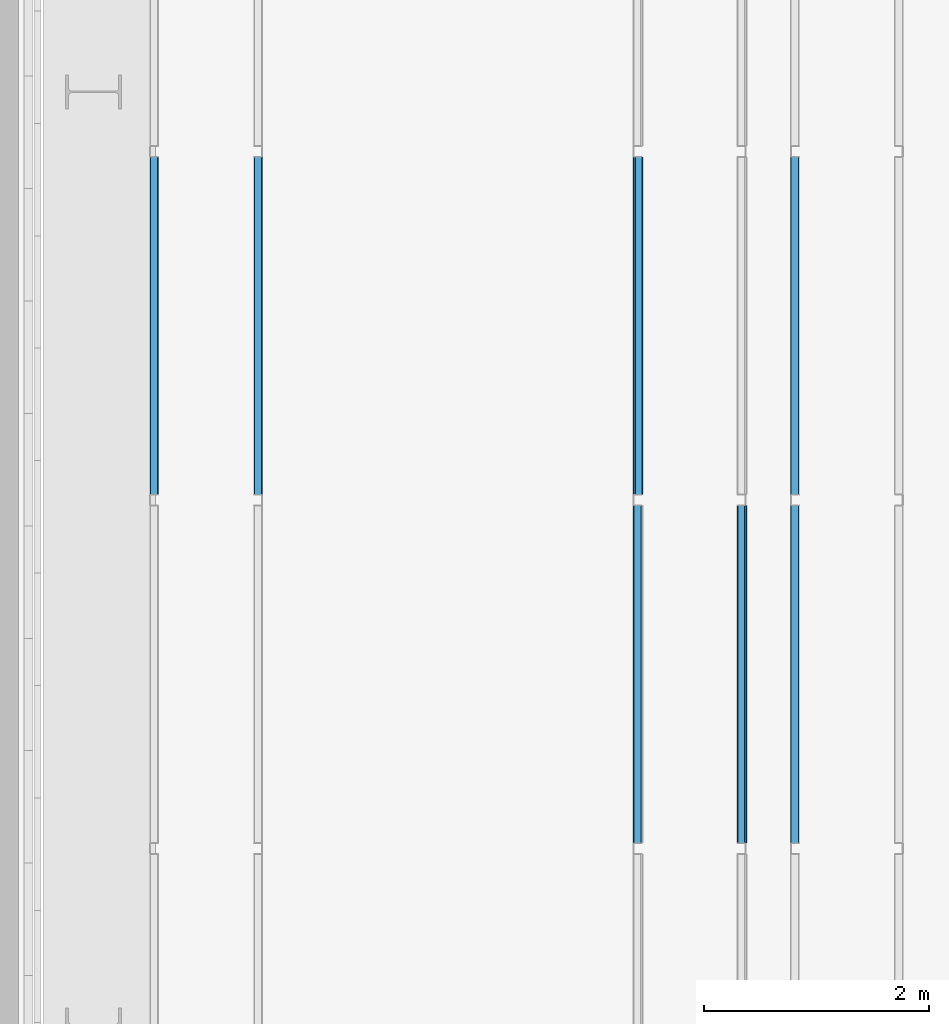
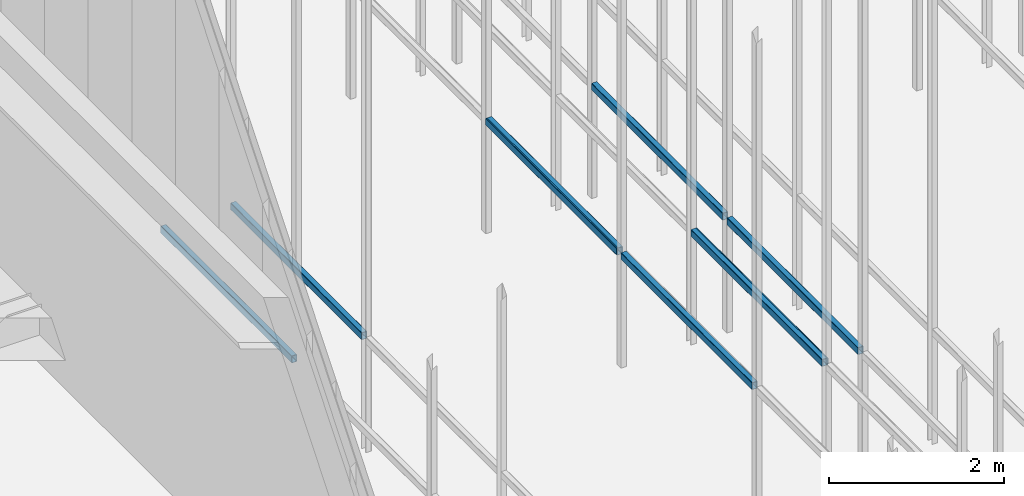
# One storey, part 142 of 302: 9 beams.
"""IFC2X3 building model written with IfcOpenShell, lengths in metres."""

from ifc_helpers import new_model, entity, si_unit, converted_unit, derived_unit, direction, frame, frame_2d, origin, place, context, subcontext, project, spatial, polyline, circle_curve, parameter, trimmed, segment, composite_curve, outline, extrude, material, type_object, element, save


model = new_model("IFC2X3")

# Units and contexts
model_context = context("Model", 3, precision=1e-05, world=origin(), true_north=direction((6.12303176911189e-17, 1.0)))
body_context = subcontext(model_context, "Body", "Model", "MODEL_VIEW")
ifc_project = project(units=[si_unit("LENGTHUNIT", "METRE"), si_unit("AREAUNIT", "SQUARE_METRE"), si_unit("VOLUMEUNIT", "CUBIC_METRE"), converted_unit("PLANEANGLEUNIT", "DEGREE", entity("IfcRatioMeasure", 0.0174532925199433), si_unit("PLANEANGLEUNIT", "RADIAN"), dimensions=[0, 0, 0, 0, 0, 0, 0]), si_unit("MASSUNIT", "GRAM", prefix="KILO"), derived_unit("MASSDENSITYUNIT", [(si_unit("MASSUNIT", "GRAM", prefix="KILO"), 1), (si_unit("LENGTHUNIT", "METRE"), -3)]), derived_unit("MOMENTOFINERTIAUNIT", [(si_unit("LENGTHUNIT", "METRE"), 4)]), si_unit("TIMEUNIT", "SECOND"), si_unit("FREQUENCYUNIT", "HERTZ"), si_unit("THERMODYNAMICTEMPERATUREUNIT", "DEGREE_CELSIUS"), derived_unit("THERMALTRANSMITTANCEUNIT", [(si_unit("MASSUNIT", "GRAM", prefix="KILO"), 1), (si_unit("THERMODYNAMICTEMPERATUREUNIT", "KELVIN"), -1), (si_unit("TIMEUNIT", "SECOND"), -3)]), derived_unit("VOLUMETRICFLOWRATEUNIT", [(si_unit("LENGTHUNIT", "METRE"), 3), (si_unit("TIMEUNIT", "SECOND"), -1)]), si_unit("ELECTRICCURRENTUNIT", "AMPERE"), si_unit("ELECTRICVOLTAGEUNIT", "VOLT"), si_unit("POWERUNIT", "WATT"), si_unit("FORCEUNIT", "NEWTON", prefix="KILO"), si_unit("ILLUMINANCEUNIT", "LUX"), si_unit("LUMINOUSFLUXUNIT", "LUMEN"), si_unit("LUMINOUSINTENSITYUNIT", "CANDELA"), derived_unit("USERDEFINED", [(si_unit("MASSUNIT", "GRAM", prefix="KILO"), -1), (si_unit("LENGTHUNIT", "METRE"), -2), (si_unit("TIMEUNIT", "SECOND"), 3), (si_unit("LUMINOUSFLUXUNIT", "LUMEN"), 1)]), derived_unit("LINEARVELOCITYUNIT", [(si_unit("LENGTHUNIT", "METRE"), 1), (si_unit("TIMEUNIT", "SECOND"), -1)]), si_unit("PRESSUREUNIT", "PASCAL"), derived_unit("USERDEFINED", [(si_unit("LENGTHUNIT", "METRE"), -2), (si_unit("MASSUNIT", "GRAM", prefix="KILO"), 1), (si_unit("TIMEUNIT", "SECOND"), -2)]), derived_unit("LINEARFORCEUNIT", [(si_unit("MASSUNIT", "GRAM", prefix="KILO"), 1), (si_unit("LENGTHUNIT", "METRE"), 1), (si_unit("TIMEUNIT", "SECOND"), -2), (si_unit("LENGTHUNIT", "METRE"), -1)]), derived_unit("PLANARFORCEUNIT", [(si_unit("MASSUNIT", "GRAM", prefix="KILO"), 1), (si_unit("LENGTHUNIT", "METRE"), 1), (si_unit("TIMEUNIT", "SECOND"), -2), (si_unit("LENGTHUNIT", "METRE"), -2)])], contexts=[model_context])

# Site, building, storey
site_placement = place(None, origin())
site = spatial("IfcSite", under=ifc_project, at=site_placement, Name="Default", CompositionType="ELEMENT")
building_placement = place(site_placement, origin())
building = spatial("IfcBuilding", under=site, at=building_placement, CompositionType="ELEMENT")
storey_placement = place(building_placement, frame((0.0, 0.0, -1.3)))
storey = spatial("IfcBuildingStorey", under=building, at=storey_placement, Name="00_EG", CompositionType="ELEMENT", Elevation=-1.3)

# Beams
ifc_material = material(Name="Metall - Baustahl S235 blau")
beam_type = type_object("IfcBeamType", Name="RHS Träger (EN 10219-2):RHS 100 x 75 x 5", PredefinedType="NOTDEFINED")
beam_1_placement = place(storey_placement, frame((-200.715111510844, 33.348088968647, 2.885), z_axis=(0.0, 0.0, 1.0), x_axis=(0.0, 1.0, 0.0)))
element("IfcBeam", 1, at=beam_1_placement, inside=storey, type_object=beam_type, material=ifc_material, Name="RHS Träger (EN 10219-2):RHS 100 x 75 x 5", ObjectType="RHS Träger (EN 10219-2):RHS 100 x 75 x 5", context=body_context, shape_type="SweptSolid", body=[
    extrude(outline(composite_curve([segment(trimmed(circle_curve(frame_2d((-0.0274999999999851, -0.0400000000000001), x_axis=(1.0, 0.0)), 0.01), [parameter(180.0)], [parameter(270.0)], True, "PARAMETER"), True, "CONTINUOUS"), segment(polyline([(-0.0274999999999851, -0.05), (0.0274999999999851, -0.05)]), True, "CONTINUOUS"), segment(trimmed(circle_curve(frame_2d((0.0274999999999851, -0.0400000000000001), x_axis=(1.0, 0.0)), 0.01), [parameter(270.0)], [parameter(5.08888749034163e-14)], True, "PARAMETER"), True, "CONTINUOUS"), segment(polyline([(0.0375000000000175, -0.0399999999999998), (0.0375000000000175, 0.0400000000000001)]), True, "CONTINUOUS"), segment(trimmed(circle_curve(frame_2d((0.0274999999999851, 0.0399999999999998), x_axis=(1.0, 0.0)), 0.01), [parameter(360.0)], [parameter(89.9999999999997)], True, "PARAMETER"), True, "CONTINUOUS"), segment(polyline([(0.0274999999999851, 0.05), (-0.0274999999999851, 0.05)]), True, "CONTINUOUS"), segment(trimmed(circle_curve(frame_2d((-0.0274999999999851, 0.0399999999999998), x_axis=(1.0, 0.0)), 0.01), [parameter(90.0000000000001)], [parameter(180.0)], True, "PARAMETER"), True, "CONTINUOUS"), segment(polyline([(-0.0374999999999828, 0.0400000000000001), (-0.0374999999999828, -0.0399999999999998)]), True, "CONTINUOUS")], self_intersect=False), holes=[composite_curve([segment(polyline([(0.0274999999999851, -0.0450000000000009), (-0.0274999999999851, -0.0450000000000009)]), True, "CONTINUOUS"), segment(trimmed(circle_curve(frame_2d((-0.0274999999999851, -0.0400000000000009), x_axis=(1.0, 0.0)), 0.005), [parameter(180.0)], [parameter(270.0)], True, "PARAMETER"), False, "CONTINUOUS"), segment(polyline([(-0.0325000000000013, -0.0400000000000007), (-0.0325000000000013, 0.0399999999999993)]), True, "CONTINUOUS"), segment(trimmed(circle_curve(frame_2d((-0.0274999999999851, 0.039999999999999), x_axis=(1.0, 0.0)), 0.005), [parameter(90.0000000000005)], [parameter(180.0)], True, "PARAMETER"), False, "CONTINUOUS"), segment(polyline([(-0.0274999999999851, 0.0449999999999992), (0.0274999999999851, 0.0449999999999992)]), True, "CONTINUOUS"), segment(trimmed(circle_curve(frame_2d((0.0274999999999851, 0.039999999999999), x_axis=(1.0, 0.0)), 0.005), [parameter(0.0)], [parameter(90.0000000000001)], True, "PARAMETER"), False, "CONTINUOUS"), segment(polyline([(0.0325000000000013, 0.0399999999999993), (0.0325000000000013, -0.0400000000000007)]), True, "CONTINUOUS"), segment(trimmed(circle_curve(frame_2d((0.0274999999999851, -0.0400000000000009), x_axis=(1.0, 0.0)), 0.005), [parameter(270.0)], [parameter(4.07110999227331e-13)], True, "PARAMETER"), False, "CONTINUOUS")], self_intersect=False)]), frame((9.99999999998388e-05, 0.0375000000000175, -0.0500000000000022), z_axis=(1.0, 0.0, 0.0), x_axis=(0.0, -1.0, 0.0)), (0.0, 0.0, 1.0), 2.9998),
])
beam_2_placement = place(storey_placement, frame((-201.255111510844, 33.348088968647, 2.885), z_axis=(0.0, 0.0, 1.0), x_axis=(0.0, 1.0, 0.0)))
element("IfcBeam", 2, at=beam_2_placement, inside=storey, type_object=beam_type, material=ifc_material, Name="RHS Träger (EN 10219-2):RHS 100 x 75 x 5", ObjectType="RHS Träger (EN 10219-2):RHS 100 x 75 x 5", context=body_context, shape_type="SweptSolid", body=[
    extrude(outline(composite_curve([segment(polyline([(-0.0399999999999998, -0.0374999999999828), (0.0400000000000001, -0.0374999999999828)]), True, "CONTINUOUS"), segment(trimmed(circle_curve(frame_2d((0.0399999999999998, -0.0274999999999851), x_axis=(0.0, 1.0)), 0.01), [parameter(180.0)], [parameter(270.0)], True, "PARAMETER"), True, "CONTINUOUS"), segment(polyline([(0.05, -0.0274999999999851), (0.05, 0.0274999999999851)]), True, "CONTINUOUS"), segment(trimmed(circle_curve(frame_2d((0.0399999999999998, 0.0274999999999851), x_axis=(0.0, 1.0)), 0.01), [parameter(270.0)], [parameter(4.07110999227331e-13)], True, "PARAMETER"), True, "CONTINUOUS"), segment(polyline([(0.0400000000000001, 0.0375000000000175), (-0.0399999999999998, 0.0375000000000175)]), True, "CONTINUOUS"), segment(trimmed(circle_curve(frame_2d((-0.0400000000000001, 0.0274999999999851), x_axis=(0.0, 1.0)), 0.01), [parameter(360.0)], [parameter(90.0000000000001)], True, "PARAMETER"), True, "CONTINUOUS"), segment(polyline([(-0.05, 0.0274999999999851), (-0.05, -0.0274999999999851)]), True, "CONTINUOUS"), segment(trimmed(circle_curve(frame_2d((-0.0400000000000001, -0.0274999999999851), x_axis=(0.0, 1.0)), 0.01), [parameter(90.0000000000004)], [parameter(180.0)], True, "PARAMETER"), True, "CONTINUOUS")], self_intersect=False), holes=[composite_curve([segment(trimmed(circle_curve(frame_2d((-0.0400000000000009, 0.0274999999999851), x_axis=(0.0, 1.0)), 0.005), [parameter(360.0)], [parameter(89.9999999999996)], True, "PARAMETER"), False, "CONTINUOUS"), segment(polyline([(-0.0400000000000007, 0.0325000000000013), (0.0399999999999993, 0.0325000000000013)]), True, "CONTINUOUS"), segment(trimmed(circle_curve(frame_2d((0.039999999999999, 0.0274999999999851), x_axis=(0.0, 1.0)), 0.005), [parameter(270.0)], [parameter(0.0)], True, "PARAMETER"), False, "CONTINUOUS"), segment(polyline([(0.0449999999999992, 0.0274999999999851), (0.0449999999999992, -0.0274999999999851)]), True, "CONTINUOUS"), segment(trimmed(circle_curve(frame_2d((0.039999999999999, -0.0274999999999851), x_axis=(0.0, 1.0)), 0.005), [parameter(180.0)], [parameter(269.999999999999)], True, "PARAMETER"), False, "CONTINUOUS"), segment(polyline([(0.0399999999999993, -0.0325000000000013), (-0.0400000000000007, -0.0325000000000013)]), True, "CONTINUOUS"), segment(trimmed(circle_curve(frame_2d((-0.0400000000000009, -0.0274999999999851), x_axis=(0.0, 1.0)), 0.005), [parameter(90.0000000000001)], [parameter(180.0)], True, "PARAMETER"), False, "CONTINUOUS"), segment(polyline([(-0.0450000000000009, -0.0274999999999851), (-0.0450000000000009, 0.0274999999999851)]), True, "CONTINUOUS")], self_intersect=False)]), frame((9.99999999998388e-05, -0.0375000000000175, -0.0500000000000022), z_axis=(1.0, 0.0, 0.0), x_axis=(0.0, 0.0, -1.0)), (0.0, 0.0, 1.0), 2.9998),
])
beam_3_placement = place(storey_placement, frame((-202.115111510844, 33.348088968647, 2.885), z_axis=(0.0, 0.0, 1.0), x_axis=(0.0, 1.0, 0.0)))
element("IfcBeam", 3, at=beam_3_placement, inside=storey, type_object=beam_type, material=ifc_material, Name="RHS Träger (EN 10219-2):RHS 100 x 75 x 5", ObjectType="RHS Träger (EN 10219-2):RHS 100 x 75 x 5", context=body_context, shape_type="SweptSolid", body=[
    extrude(outline(composite_curve([segment(trimmed(circle_curve(frame_2d((-0.0274999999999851, -0.0400000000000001), x_axis=(1.0, 0.0)), 0.01), [parameter(180.0)], [parameter(270.0)], True, "PARAMETER"), True, "CONTINUOUS"), segment(polyline([(-0.0274999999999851, -0.05), (0.0274999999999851, -0.05)]), True, "CONTINUOUS"), segment(trimmed(circle_curve(frame_2d((0.0274999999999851, -0.0400000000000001), x_axis=(1.0, 0.0)), 0.01), [parameter(270.0)], [parameter(5.08888749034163e-14)], True, "PARAMETER"), True, "CONTINUOUS"), segment(polyline([(0.0375000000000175, -0.0399999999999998), (0.0375000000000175, 0.0400000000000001)]), True, "CONTINUOUS"), segment(trimmed(circle_curve(frame_2d((0.0274999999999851, 0.0399999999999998), x_axis=(1.0, 0.0)), 0.01), [parameter(360.0)], [parameter(89.9999999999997)], True, "PARAMETER"), True, "CONTINUOUS"), segment(polyline([(0.0274999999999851, 0.05), (-0.0274999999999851, 0.05)]), True, "CONTINUOUS"), segment(trimmed(circle_curve(frame_2d((-0.0274999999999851, 0.0399999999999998), x_axis=(1.0, 0.0)), 0.01), [parameter(90.0000000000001)], [parameter(180.0)], True, "PARAMETER"), True, "CONTINUOUS"), segment(polyline([(-0.0374999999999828, 0.0400000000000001), (-0.0374999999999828, -0.0399999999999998)]), True, "CONTINUOUS")], self_intersect=False), holes=[composite_curve([segment(polyline([(0.0274999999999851, -0.0450000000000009), (-0.0274999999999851, -0.0450000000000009)]), True, "CONTINUOUS"), segment(trimmed(circle_curve(frame_2d((-0.0274999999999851, -0.0400000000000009), x_axis=(1.0, 0.0)), 0.005), [parameter(180.0)], [parameter(270.0)], True, "PARAMETER"), False, "CONTINUOUS"), segment(polyline([(-0.0325000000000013, -0.0400000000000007), (-0.0325000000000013, 0.0399999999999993)]), True, "CONTINUOUS"), segment(trimmed(circle_curve(frame_2d((-0.0274999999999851, 0.039999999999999), x_axis=(1.0, 0.0)), 0.005), [parameter(90.0000000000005)], [parameter(180.0)], True, "PARAMETER"), False, "CONTINUOUS"), segment(polyline([(-0.0274999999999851, 0.0449999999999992), (0.0274999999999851, 0.0449999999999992)]), True, "CONTINUOUS"), segment(trimmed(circle_curve(frame_2d((0.0274999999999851, 0.039999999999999), x_axis=(1.0, 0.0)), 0.005), [parameter(0.0)], [parameter(90.0000000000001)], True, "PARAMETER"), False, "CONTINUOUS"), segment(polyline([(0.0325000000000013, 0.0399999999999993), (0.0325000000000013, -0.0400000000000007)]), True, "CONTINUOUS"), segment(trimmed(circle_curve(frame_2d((0.0274999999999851, -0.0400000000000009), x_axis=(1.0, 0.0)), 0.005), [parameter(270.0)], [parameter(4.07110999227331e-13)], True, "PARAMETER"), False, "CONTINUOUS")], self_intersect=False)]), frame((9.99999999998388e-05, 0.0375000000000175, -0.0500000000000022), z_axis=(1.0, 0.0, 0.0), x_axis=(0.0, -1.0, 0.0)), (0.0, 0.0, 1.0), 2.9998),
])
beam_4_placement = place(storey_placement, frame((-201.265111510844, 33.348088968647, 2.885), z_axis=(0.0, 0.0, 1.0), x_axis=(0.0, 1.0, 0.0)))
element("IfcBeam", 4, at=beam_4_placement, inside=storey, type_object=beam_type, material=ifc_material, Name="RHS Träger (EN 10219-2):RHS 100 x 75 x 5", ObjectType="RHS Träger (EN 10219-2):RHS 100 x 75 x 5", context=body_context, shape_type="SweptSolid", body=[
    extrude(outline(composite_curve([segment(polyline([(-0.0399999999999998, -0.0374999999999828), (0.0400000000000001, -0.0374999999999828)]), True, "CONTINUOUS"), segment(trimmed(circle_curve(frame_2d((0.0399999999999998, -0.0274999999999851), x_axis=(0.0, 1.0)), 0.01), [parameter(180.0)], [parameter(270.0)], True, "PARAMETER"), True, "CONTINUOUS"), segment(polyline([(0.05, -0.0274999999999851), (0.05, 0.0274999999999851)]), True, "CONTINUOUS"), segment(trimmed(circle_curve(frame_2d((0.0399999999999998, 0.0274999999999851), x_axis=(0.0, 1.0)), 0.01), [parameter(270.0)], [parameter(4.07110999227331e-13)], True, "PARAMETER"), True, "CONTINUOUS"), segment(polyline([(0.0400000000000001, 0.0375000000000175), (-0.0399999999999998, 0.0375000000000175)]), True, "CONTINUOUS"), segment(trimmed(circle_curve(frame_2d((-0.0400000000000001, 0.0274999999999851), x_axis=(0.0, 1.0)), 0.01), [parameter(360.0)], [parameter(90.0000000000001)], True, "PARAMETER"), True, "CONTINUOUS"), segment(polyline([(-0.05, 0.0274999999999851), (-0.05, -0.0274999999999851)]), True, "CONTINUOUS"), segment(trimmed(circle_curve(frame_2d((-0.0400000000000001, -0.0274999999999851), x_axis=(0.0, 1.0)), 0.01), [parameter(90.0000000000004)], [parameter(180.0)], True, "PARAMETER"), True, "CONTINUOUS")], self_intersect=False), holes=[composite_curve([segment(trimmed(circle_curve(frame_2d((-0.0400000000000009, 0.0274999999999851), x_axis=(0.0, 1.0)), 0.005), [parameter(360.0)], [parameter(89.9999999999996)], True, "PARAMETER"), False, "CONTINUOUS"), segment(polyline([(-0.0400000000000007, 0.0325000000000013), (0.0399999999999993, 0.0325000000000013)]), True, "CONTINUOUS"), segment(trimmed(circle_curve(frame_2d((0.039999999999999, 0.0274999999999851), x_axis=(0.0, 1.0)), 0.005), [parameter(270.0)], [parameter(0.0)], True, "PARAMETER"), False, "CONTINUOUS"), segment(polyline([(0.0449999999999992, 0.0274999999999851), (0.0449999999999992, -0.0274999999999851)]), True, "CONTINUOUS"), segment(trimmed(circle_curve(frame_2d((0.039999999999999, -0.0274999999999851), x_axis=(0.0, 1.0)), 0.005), [parameter(180.0)], [parameter(269.999999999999)], True, "PARAMETER"), False, "CONTINUOUS"), segment(polyline([(0.0399999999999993, -0.0325000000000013), (-0.0400000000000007, -0.0325000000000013)]), True, "CONTINUOUS"), segment(trimmed(circle_curve(frame_2d((-0.0400000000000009, -0.0274999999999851), x_axis=(0.0, 1.0)), 0.005), [parameter(90.0000000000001)], [parameter(180.0)], True, "PARAMETER"), False, "CONTINUOUS"), segment(polyline([(-0.0450000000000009, -0.0274999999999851), (-0.0450000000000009, 0.0274999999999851)]), True, "CONTINUOUS")], self_intersect=False)]), frame((9.99999999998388e-05, -0.0375000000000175, -0.0500000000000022), z_axis=(1.0, 0.0, 0.0), x_axis=(0.0, 0.0, -1.0)), (0.0, 0.0, 1.0), 2.9998),
])
beam_5_placement = place(storey_placement, frame((-200.715111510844, 36.448088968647, 2.885), z_axis=(0.0, 0.0, 1.0), x_axis=(0.0, 1.0, 0.0)))
element("IfcBeam", 5, at=beam_5_placement, inside=storey, type_object=beam_type, material=ifc_material, Name="RHS Träger (EN 10219-2):RHS 100 x 75 x 5", ObjectType="RHS Träger (EN 10219-2):RHS 100 x 75 x 5", context=body_context, shape_type="SweptSolid", body=[
    extrude(outline(composite_curve([segment(trimmed(circle_curve(frame_2d((-0.0274999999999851, -0.0400000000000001), x_axis=(1.0, 0.0)), 0.01), [parameter(180.0)], [parameter(270.0)], True, "PARAMETER"), True, "CONTINUOUS"), segment(polyline([(-0.0274999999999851, -0.05), (0.0274999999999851, -0.05)]), True, "CONTINUOUS"), segment(trimmed(circle_curve(frame_2d((0.0274999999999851, -0.0400000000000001), x_axis=(1.0, 0.0)), 0.01), [parameter(270.0)], [parameter(5.08888749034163e-14)], True, "PARAMETER"), True, "CONTINUOUS"), segment(polyline([(0.0375000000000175, -0.0399999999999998), (0.0375000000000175, 0.0400000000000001)]), True, "CONTINUOUS"), segment(trimmed(circle_curve(frame_2d((0.0274999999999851, 0.0399999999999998), x_axis=(1.0, 0.0)), 0.01), [parameter(360.0)], [parameter(89.9999999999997)], True, "PARAMETER"), True, "CONTINUOUS"), segment(polyline([(0.0274999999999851, 0.05), (-0.0274999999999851, 0.05)]), True, "CONTINUOUS"), segment(trimmed(circle_curve(frame_2d((-0.0274999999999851, 0.0399999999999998), x_axis=(1.0, 0.0)), 0.01), [parameter(90.0000000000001)], [parameter(180.0)], True, "PARAMETER"), True, "CONTINUOUS"), segment(polyline([(-0.0374999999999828, 0.0400000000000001), (-0.0374999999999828, -0.0399999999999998)]), True, "CONTINUOUS")], self_intersect=False), holes=[composite_curve([segment(polyline([(0.0274999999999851, -0.0450000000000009), (-0.0274999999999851, -0.0450000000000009)]), True, "CONTINUOUS"), segment(trimmed(circle_curve(frame_2d((-0.0274999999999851, -0.0400000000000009), x_axis=(1.0, 0.0)), 0.005), [parameter(180.0)], [parameter(270.0)], True, "PARAMETER"), False, "CONTINUOUS"), segment(polyline([(-0.0325000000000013, -0.0400000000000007), (-0.0325000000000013, 0.0399999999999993)]), True, "CONTINUOUS"), segment(trimmed(circle_curve(frame_2d((-0.0274999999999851, 0.039999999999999), x_axis=(1.0, 0.0)), 0.005), [parameter(90.0000000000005)], [parameter(180.0)], True, "PARAMETER"), False, "CONTINUOUS"), segment(polyline([(-0.0274999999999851, 0.0449999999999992), (0.0274999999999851, 0.0449999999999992)]), True, "CONTINUOUS"), segment(trimmed(circle_curve(frame_2d((0.0274999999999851, 0.039999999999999), x_axis=(1.0, 0.0)), 0.005), [parameter(0.0)], [parameter(90.0000000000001)], True, "PARAMETER"), False, "CONTINUOUS"), segment(polyline([(0.0325000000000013, 0.0399999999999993), (0.0325000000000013, -0.0400000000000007)]), True, "CONTINUOUS"), segment(trimmed(circle_curve(frame_2d((0.0274999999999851, -0.0400000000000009), x_axis=(1.0, 0.0)), 0.005), [parameter(270.0)], [parameter(4.07110999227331e-13)], True, "PARAMETER"), False, "CONTINUOUS")], self_intersect=False)]), frame((9.99999999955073e-05, 0.0375000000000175, -0.0500000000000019), z_axis=(1.0, 0.0, 0.0), x_axis=(0.0, -1.0, 0.0)), (0.0, 0.0, 1.0), 2.9998),
])
beam_6_placement = place(storey_placement, frame((-202.105111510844, 36.448088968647, 2.885), z_axis=(0.0, 0.0, 1.0), x_axis=(0.0, 1.0, 0.0)))
element("IfcBeam", 6, at=beam_6_placement, inside=storey, type_object=beam_type, material=ifc_material, Name="RHS Träger (EN 10219-2):RHS 100 x 75 x 5", ObjectType="RHS Träger (EN 10219-2):RHS 100 x 75 x 5", context=body_context, shape_type="SweptSolid", body=[
    extrude(outline(composite_curve([segment(trimmed(circle_curve(frame_2d((-0.0274999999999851, -0.0400000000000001), x_axis=(1.0, 0.0)), 0.01), [parameter(180.0)], [parameter(270.0)], True, "PARAMETER"), True, "CONTINUOUS"), segment(polyline([(-0.0274999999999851, -0.05), (0.0274999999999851, -0.05)]), True, "CONTINUOUS"), segment(trimmed(circle_curve(frame_2d((0.0274999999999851, -0.0400000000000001), x_axis=(1.0, 0.0)), 0.01), [parameter(270.0)], [parameter(5.08888749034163e-14)], True, "PARAMETER"), True, "CONTINUOUS"), segment(polyline([(0.0375000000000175, -0.0399999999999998), (0.0375000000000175, 0.0400000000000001)]), True, "CONTINUOUS"), segment(trimmed(circle_curve(frame_2d((0.0274999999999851, 0.0399999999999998), x_axis=(1.0, 0.0)), 0.01), [parameter(360.0)], [parameter(89.9999999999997)], True, "PARAMETER"), True, "CONTINUOUS"), segment(polyline([(0.0274999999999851, 0.05), (-0.0274999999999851, 0.05)]), True, "CONTINUOUS"), segment(trimmed(circle_curve(frame_2d((-0.0274999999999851, 0.0399999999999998), x_axis=(1.0, 0.0)), 0.01), [parameter(90.0000000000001)], [parameter(180.0)], True, "PARAMETER"), True, "CONTINUOUS"), segment(polyline([(-0.0374999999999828, 0.0400000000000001), (-0.0374999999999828, -0.0399999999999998)]), True, "CONTINUOUS")], self_intersect=False), holes=[composite_curve([segment(polyline([(0.0274999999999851, -0.0450000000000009), (-0.0274999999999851, -0.0450000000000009)]), True, "CONTINUOUS"), segment(trimmed(circle_curve(frame_2d((-0.0274999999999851, -0.0400000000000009), x_axis=(1.0, 0.0)), 0.005), [parameter(180.0)], [parameter(270.0)], True, "PARAMETER"), False, "CONTINUOUS"), segment(polyline([(-0.0325000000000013, -0.0400000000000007), (-0.0325000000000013, 0.0399999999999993)]), True, "CONTINUOUS"), segment(trimmed(circle_curve(frame_2d((-0.0274999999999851, 0.039999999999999), x_axis=(1.0, 0.0)), 0.005), [parameter(90.0000000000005)], [parameter(180.0)], True, "PARAMETER"), False, "CONTINUOUS"), segment(polyline([(-0.0274999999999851, 0.0449999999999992), (0.0274999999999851, 0.0449999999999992)]), True, "CONTINUOUS"), segment(trimmed(circle_curve(frame_2d((0.0274999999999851, 0.039999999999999), x_axis=(1.0, 0.0)), 0.005), [parameter(0.0)], [parameter(90.0000000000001)], True, "PARAMETER"), False, "CONTINUOUS"), segment(polyline([(0.0325000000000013, 0.0399999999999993), (0.0325000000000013, -0.0400000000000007)]), True, "CONTINUOUS"), segment(trimmed(circle_curve(frame_2d((0.0274999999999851, -0.0400000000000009), x_axis=(1.0, 0.0)), 0.005), [parameter(270.0)], [parameter(4.07110999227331e-13)], True, "PARAMETER"), False, "CONTINUOUS")], self_intersect=False)]), frame((9.99999999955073e-05, 0.0375000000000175, -0.0500000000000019), z_axis=(1.0, 0.0, 0.0), x_axis=(0.0, -1.0, 0.0)), (0.0, 0.0, 1.0), 2.9998),
])
beam_7_placement = place(storey_placement, frame((-206.415111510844, 36.448088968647, 2.885), z_axis=(0.0, 0.0, 1.0), x_axis=(0.0, 1.0, 0.0)))
element("IfcBeam", 7, at=beam_7_placement, inside=storey, type_object=beam_type, material=ifc_material, Name="RHS Träger (EN 10219-2):RHS 100 x 75 x 5", ObjectType="RHS Träger (EN 10219-2):RHS 100 x 75 x 5", context=body_context, shape_type="SweptSolid", body=[
    extrude(outline(composite_curve([segment(trimmed(circle_curve(frame_2d((-0.0274999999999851, -0.0400000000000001), x_axis=(1.0, 0.0)), 0.01), [parameter(180.0)], [parameter(270.0)], True, "PARAMETER"), True, "CONTINUOUS"), segment(polyline([(-0.0274999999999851, -0.05), (0.0274999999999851, -0.05)]), True, "CONTINUOUS"), segment(trimmed(circle_curve(frame_2d((0.0274999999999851, -0.0400000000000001), x_axis=(1.0, 0.0)), 0.01), [parameter(270.0)], [parameter(5.08888749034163e-14)], True, "PARAMETER"), True, "CONTINUOUS"), segment(polyline([(0.0375000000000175, -0.0399999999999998), (0.0375000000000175, 0.0400000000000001)]), True, "CONTINUOUS"), segment(trimmed(circle_curve(frame_2d((0.0274999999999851, 0.0399999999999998), x_axis=(1.0, 0.0)), 0.01), [parameter(360.0)], [parameter(89.9999999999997)], True, "PARAMETER"), True, "CONTINUOUS"), segment(polyline([(0.0274999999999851, 0.05), (-0.0274999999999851, 0.05)]), True, "CONTINUOUS"), segment(trimmed(circle_curve(frame_2d((-0.0274999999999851, 0.0399999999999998), x_axis=(1.0, 0.0)), 0.01), [parameter(90.0000000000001)], [parameter(180.0)], True, "PARAMETER"), True, "CONTINUOUS"), segment(polyline([(-0.0374999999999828, 0.0400000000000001), (-0.0374999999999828, -0.0399999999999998)]), True, "CONTINUOUS")], self_intersect=False), holes=[composite_curve([segment(polyline([(0.0274999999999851, -0.0450000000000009), (-0.0274999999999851, -0.0450000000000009)]), True, "CONTINUOUS"), segment(trimmed(circle_curve(frame_2d((-0.0274999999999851, -0.0400000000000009), x_axis=(1.0, 0.0)), 0.005), [parameter(180.0)], [parameter(270.0)], True, "PARAMETER"), False, "CONTINUOUS"), segment(polyline([(-0.0325000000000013, -0.0400000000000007), (-0.0325000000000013, 0.0399999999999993)]), True, "CONTINUOUS"), segment(trimmed(circle_curve(frame_2d((-0.0274999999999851, 0.039999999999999), x_axis=(1.0, 0.0)), 0.005), [parameter(90.0000000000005)], [parameter(180.0)], True, "PARAMETER"), False, "CONTINUOUS"), segment(polyline([(-0.0274999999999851, 0.0449999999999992), (0.0274999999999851, 0.0449999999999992)]), True, "CONTINUOUS"), segment(trimmed(circle_curve(frame_2d((0.0274999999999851, 0.039999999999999), x_axis=(1.0, 0.0)), 0.005), [parameter(0.0)], [parameter(90.0000000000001)], True, "PARAMETER"), False, "CONTINUOUS"), segment(polyline([(0.0325000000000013, 0.0399999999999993), (0.0325000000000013, -0.0400000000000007)]), True, "CONTINUOUS"), segment(trimmed(circle_curve(frame_2d((0.0274999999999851, -0.0400000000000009), x_axis=(1.0, 0.0)), 0.005), [parameter(270.0)], [parameter(4.07110999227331e-13)], True, "PARAMETER"), False, "CONTINUOUS")], self_intersect=False)]), frame((0.00010000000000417, 0.0375000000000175, -0.0500000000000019), z_axis=(1.0, 0.0, 0.0), x_axis=(0.0, -1.0, 0.0)), (0.0, 0.0, 1.0), 2.9998),
])
beam_8_placement = place(storey_placement, frame((-205.565111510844, 36.448088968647, 2.885), z_axis=(0.0, 0.0, 1.0), x_axis=(0.0, 1.0, 0.0)))
element("IfcBeam", 8, at=beam_8_placement, inside=storey, type_object=beam_type, material=ifc_material, Name="RHS Träger (EN 10219-2):RHS 100 x 75 x 5", ObjectType="RHS Träger (EN 10219-2):RHS 100 x 75 x 5", context=body_context, shape_type="SweptSolid", body=[
    extrude(outline(composite_curve([segment(polyline([(-0.0399999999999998, -0.0374999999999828), (0.0400000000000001, -0.0374999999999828)]), True, "CONTINUOUS"), segment(trimmed(circle_curve(frame_2d((0.0399999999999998, -0.0274999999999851), x_axis=(0.0, 1.0)), 0.01), [parameter(180.0)], [parameter(270.0)], True, "PARAMETER"), True, "CONTINUOUS"), segment(polyline([(0.05, -0.0274999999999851), (0.05, 0.0274999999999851)]), True, "CONTINUOUS"), segment(trimmed(circle_curve(frame_2d((0.0399999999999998, 0.0274999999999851), x_axis=(0.0, 1.0)), 0.01), [parameter(270.0)], [parameter(4.07110999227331e-13)], True, "PARAMETER"), True, "CONTINUOUS"), segment(polyline([(0.0400000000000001, 0.0375000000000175), (-0.0399999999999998, 0.0375000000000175)]), True, "CONTINUOUS"), segment(trimmed(circle_curve(frame_2d((-0.0400000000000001, 0.0274999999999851), x_axis=(0.0, 1.0)), 0.01), [parameter(360.0)], [parameter(90.0000000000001)], True, "PARAMETER"), True, "CONTINUOUS"), segment(polyline([(-0.05, 0.0274999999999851), (-0.05, -0.0274999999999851)]), True, "CONTINUOUS"), segment(trimmed(circle_curve(frame_2d((-0.0400000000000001, -0.0274999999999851), x_axis=(0.0, 1.0)), 0.01), [parameter(90.0000000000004)], [parameter(180.0)], True, "PARAMETER"), True, "CONTINUOUS")], self_intersect=False), holes=[composite_curve([segment(trimmed(circle_curve(frame_2d((-0.0400000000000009, 0.0274999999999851), x_axis=(0.0, 1.0)), 0.005), [parameter(360.0)], [parameter(89.9999999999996)], True, "PARAMETER"), False, "CONTINUOUS"), segment(polyline([(-0.0400000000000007, 0.0325000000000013), (0.0399999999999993, 0.0325000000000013)]), True, "CONTINUOUS"), segment(trimmed(circle_curve(frame_2d((0.039999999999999, 0.0274999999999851), x_axis=(0.0, 1.0)), 0.005), [parameter(270.0)], [parameter(0.0)], True, "PARAMETER"), False, "CONTINUOUS"), segment(polyline([(0.0449999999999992, 0.0274999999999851), (0.0449999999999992, -0.0274999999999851)]), True, "CONTINUOUS"), segment(trimmed(circle_curve(frame_2d((0.039999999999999, -0.0274999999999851), x_axis=(0.0, 1.0)), 0.005), [parameter(180.0)], [parameter(269.999999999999)], True, "PARAMETER"), False, "CONTINUOUS"), segment(polyline([(0.0399999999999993, -0.0325000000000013), (-0.0400000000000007, -0.0325000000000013)]), True, "CONTINUOUS"), segment(trimmed(circle_curve(frame_2d((-0.0400000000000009, -0.0274999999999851), x_axis=(0.0, 1.0)), 0.005), [parameter(90.0000000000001)], [parameter(180.0)], True, "PARAMETER"), False, "CONTINUOUS"), segment(polyline([(-0.0450000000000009, -0.0274999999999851), (-0.0450000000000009, 0.0274999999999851)]), True, "CONTINUOUS")], self_intersect=False)]), frame((0.00010000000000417, -0.0375000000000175, -0.0500000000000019), z_axis=(1.0, 0.0, 0.0), x_axis=(0.0, 0.0, -1.0)), (0.0, 0.0, 1.0), 2.9998),
])
beam_9_placement = place(storey_placement, frame((-202.115111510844, 36.448088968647, 2.885), z_axis=(0.0, 0.0, 1.0), x_axis=(0.0, 1.0, 0.0)))
element("IfcBeam", 9, at=beam_9_placement, inside=storey, type_object=beam_type, material=ifc_material, Name="RHS Träger (EN 10219-2):RHS 100 x 75 x 5", ObjectType="RHS Träger (EN 10219-2):RHS 100 x 75 x 5", context=body_context, shape_type="SweptSolid", body=[
    extrude(outline(composite_curve([segment(trimmed(circle_curve(frame_2d((-0.0274999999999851, -0.0400000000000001), x_axis=(1.0, 0.0)), 0.01), [parameter(180.0)], [parameter(270.0)], True, "PARAMETER"), True, "CONTINUOUS"), segment(polyline([(-0.0274999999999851, -0.05), (0.0274999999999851, -0.05)]), True, "CONTINUOUS"), segment(trimmed(circle_curve(frame_2d((0.0274999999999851, -0.0400000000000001), x_axis=(1.0, 0.0)), 0.01), [parameter(270.0)], [parameter(5.08888749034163e-14)], True, "PARAMETER"), True, "CONTINUOUS"), segment(polyline([(0.0375000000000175, -0.0399999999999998), (0.0375000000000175, 0.0400000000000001)]), True, "CONTINUOUS"), segment(trimmed(circle_curve(frame_2d((0.0274999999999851, 0.0399999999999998), x_axis=(1.0, 0.0)), 0.01), [parameter(360.0)], [parameter(89.9999999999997)], True, "PARAMETER"), True, "CONTINUOUS"), segment(polyline([(0.0274999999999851, 0.05), (-0.0274999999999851, 0.05)]), True, "CONTINUOUS"), segment(trimmed(circle_curve(frame_2d((-0.0274999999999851, 0.0399999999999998), x_axis=(1.0, 0.0)), 0.01), [parameter(90.0000000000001)], [parameter(180.0)], True, "PARAMETER"), True, "CONTINUOUS"), segment(polyline([(-0.0374999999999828, 0.0400000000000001), (-0.0374999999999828, -0.0399999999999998)]), True, "CONTINUOUS")], self_intersect=False), holes=[composite_curve([segment(polyline([(0.0274999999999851, -0.0450000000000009), (-0.0274999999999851, -0.0450000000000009)]), True, "CONTINUOUS"), segment(trimmed(circle_curve(frame_2d((-0.0274999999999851, -0.0400000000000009), x_axis=(1.0, 0.0)), 0.005), [parameter(180.0)], [parameter(270.0)], True, "PARAMETER"), False, "CONTINUOUS"), segment(polyline([(-0.0325000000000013, -0.0400000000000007), (-0.0325000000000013, 0.0399999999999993)]), True, "CONTINUOUS"), segment(trimmed(circle_curve(frame_2d((-0.0274999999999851, 0.039999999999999), x_axis=(1.0, 0.0)), 0.005), [parameter(90.0000000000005)], [parameter(180.0)], True, "PARAMETER"), False, "CONTINUOUS"), segment(polyline([(-0.0274999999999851, 0.0449999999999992), (0.0274999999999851, 0.0449999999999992)]), True, "CONTINUOUS"), segment(trimmed(circle_curve(frame_2d((0.0274999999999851, 0.039999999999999), x_axis=(1.0, 0.0)), 0.005), [parameter(0.0)], [parameter(90.0000000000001)], True, "PARAMETER"), False, "CONTINUOUS"), segment(polyline([(0.0325000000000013, 0.0399999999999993), (0.0325000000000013, -0.0400000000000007)]), True, "CONTINUOUS"), segment(trimmed(circle_curve(frame_2d((0.0274999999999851, -0.0400000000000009), x_axis=(1.0, 0.0)), 0.005), [parameter(270.0)], [parameter(4.07110999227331e-13)], True, "PARAMETER"), False, "CONTINUOUS")], self_intersect=False)]), frame((9.99999999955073e-05, 0.0375000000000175, -0.0500000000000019), z_axis=(1.0, 0.0, 0.0), x_axis=(0.0, -1.0, 0.0)), (0.0, 0.0, 1.0), 2.9998),
])

save(model, "model.ifc")
